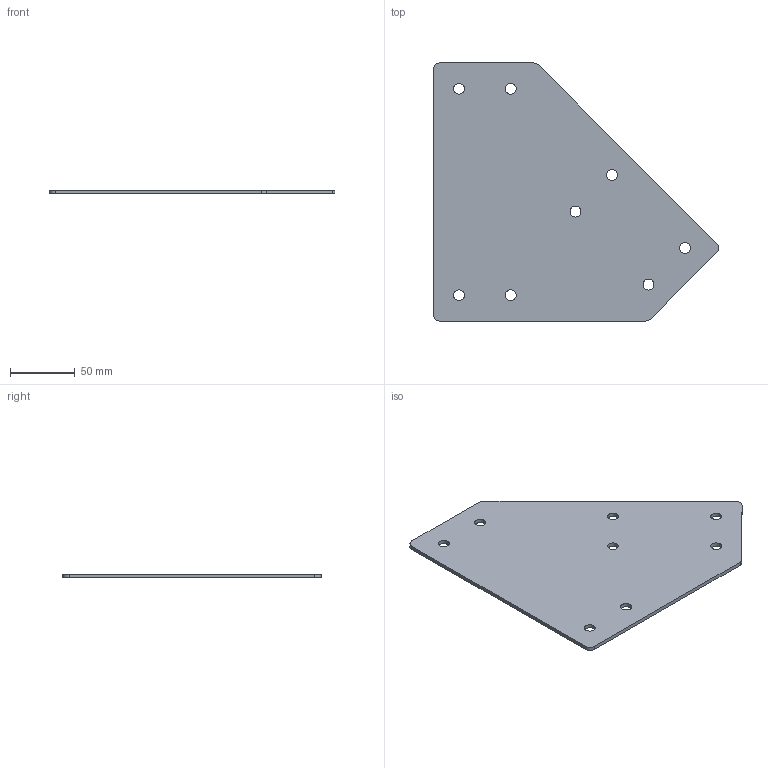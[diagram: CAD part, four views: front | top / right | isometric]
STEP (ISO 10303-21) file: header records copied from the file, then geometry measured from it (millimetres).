
FILE_DESCRIPTION(/* description */ ('CONNECTION PLATE 45° FOR 80x80'),/* implementation_level */ '2;1');
FILE_NAME(/* name */ '\\carryline.intra\privat\users\mathias\Desktop\Tillfälliga filer\100-5030.stp',/* time_stamp */ '2018-11-20T11:05:29+01:00',/* author */ ('PL'),/* organization */ ('CARRYLINE'),/* preprocessor_version */ 'ST-DEVELOPER v17',/* originating_system */ 'Autodesk Inventor 2018',/* authorisation */ '');
FILE_SCHEMA (('AUTOMOTIVE_DESIGN { 1 0 10303 214 3 1 1 }'));
Length unit declared in the file: millimetre
Products named in the file (1): 100-5030
Bounding box: 221.34 x 200 x 3 mm (x, y, z)
Volume: 96986.6 mm3; surface area: 67467.1 mm2
Topology: 1 solids, 1 shells, 20 faces, 62 edges, 44 vertices
Faces by surface type: cylinder 13, plane 7
Full cylindrical faces by diameter (mm): 8.5 x8
Entity records: 795 total; most frequent: DIRECTION 138, CARTESIAN_POINT 127, ORIENTED_EDGE 124, EDGE_CURVE 62, AXIS2_PLACEMENT_3D 55, VERTEX_POINT 44, EDGE_LOOP 36, CIRCLE 34
